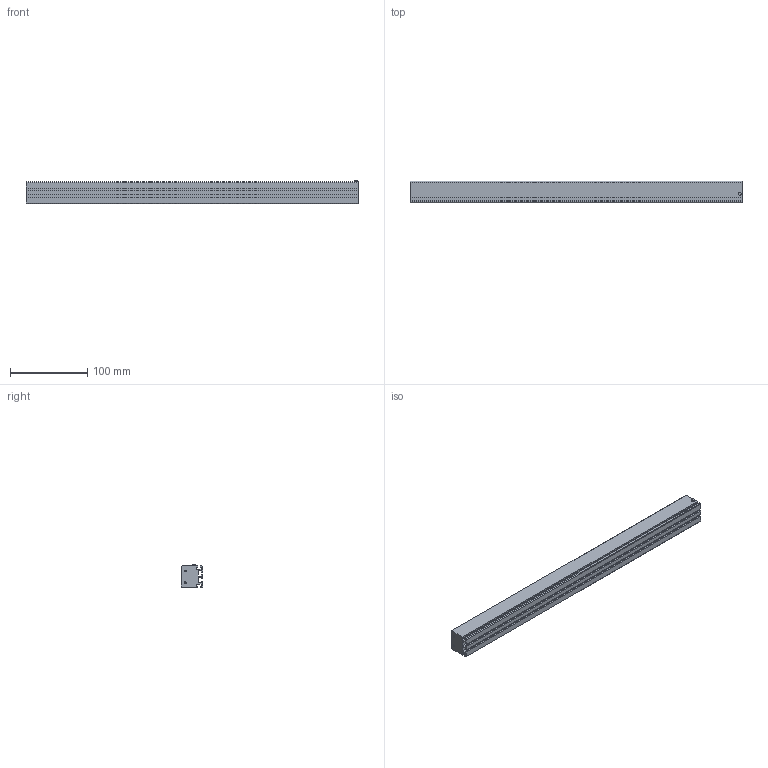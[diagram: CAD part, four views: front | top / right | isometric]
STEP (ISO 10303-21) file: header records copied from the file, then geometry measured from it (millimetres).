
FILE_DESCRIPTION (( 'STEP AP203' ), '1' );
FILE_NAME ('LRD-B4-430.STEP', '2022-08-22T06:52:47', ( 'TNT' ), ( '' ), 'SwSTEP 2.0', 'SolidWorks 2018', '' );
FILE_SCHEMA (( 'CONFIG_CONTROL_DESIGN' ));
Length unit declared in the file: millimetre
Products named in the file (1): LRD-B4-430
Bounding box: 430 x 27.7 x 30.6 mm (x, y, z)
Volume: 281771 mm3; surface area: 78698.8 mm2
Topology: 1 solids, 1 shells, 66 faces, 178 edges, 112 vertices
Faces by surface type: plane 48, cylinder 10, cone 8
Entity records: 2059 total; most frequent: CARTESIAN_POINT 349, ORIENTED_EDGE 340, DIRECTION 324, EDGE_CURVE 170, LINE 150, VECTOR 150, VERTEX_POINT 112, AXIS2_PLACEMENT_3D 87
